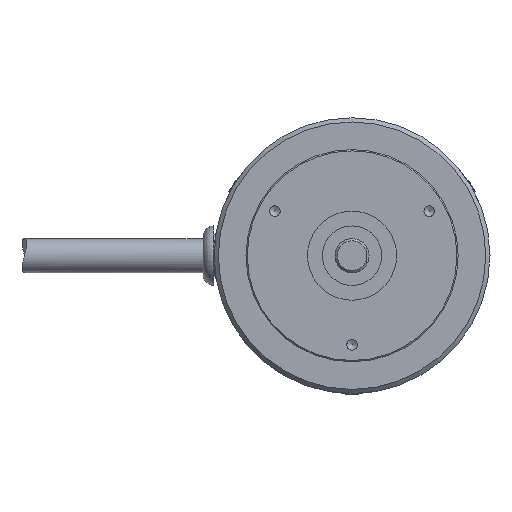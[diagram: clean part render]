
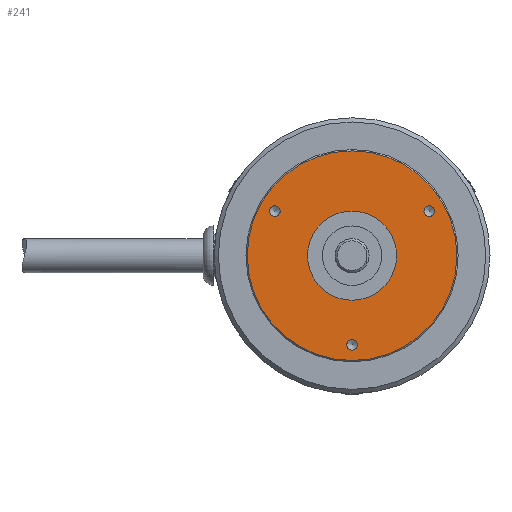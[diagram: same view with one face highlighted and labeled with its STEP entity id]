
A CAD part, left-side view. The second image highlights one B-rep face of the part: STEP entity #241.
In plain terms, the highlighted planar face has unit normal (-1, 0, 0).
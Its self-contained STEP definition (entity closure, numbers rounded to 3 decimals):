
#241=ADVANCED_FACE('',(#512,#513,#514,#515,#516),#517,.F.);
#512=FACE_OUTER_BOUND('',#893,.T.);
#513=FACE_BOUND('',#894,.T.);
#514=FACE_BOUND('',#895,.T.);
#515=FACE_BOUND('',#896,.T.);
#516=FACE_BOUND('',#897,.T.);
#517=PLANE('',#898);
#893=EDGE_LOOP('',(#1380));
#894=EDGE_LOOP('',(#1381));
#895=EDGE_LOOP('',(#1382));
#896=EDGE_LOOP('',(#1383));
#897=EDGE_LOOP('',(#1384));
#898=AXIS2_PLACEMENT_3D('',#1385,#1386,#1387);
#1380=ORIENTED_EDGE('',*,*,#2025,.T.);
#1381=ORIENTED_EDGE('',*,*,#2026,.F.);
#1382=ORIENTED_EDGE('',*,*,#2027,.F.);
#1383=ORIENTED_EDGE('',*,*,#2028,.F.);
#1384=ORIENTED_EDGE('',*,*,#2022,.F.);
#1385=CARTESIAN_POINT('',(0.,17.75,0.0));
#1386=DIRECTION('',(1.0,0.0,0.0));
#1387=DIRECTION('',(0.0,0.0,-1.0));
#2022=EDGE_CURVE('',#2342,#2342,#2343,.T.);
#2025=EDGE_CURVE('',#2347,#2347,#2348,.F.);
#2026=EDGE_CURVE('',#2349,#2349,#2350,.T.);
#2027=EDGE_CURVE('',#2351,#2351,#2352,.T.);
#2028=EDGE_CURVE('',#2353,#2353,#2354,.T.);
#2342=VERTEX_POINT('',#2908);
#2343=CIRCLE('',#2909,10.5);
#2347=VERTEX_POINT('',#2913);
#2348=CIRCLE('',#2914,24.7);
#2349=VERTEX_POINT('',#2915);
#2350=CIRCLE('',#2916,1.25);
#2351=VERTEX_POINT('',#2917);
#2352=CIRCLE('',#2918,1.25);
#2353=VERTEX_POINT('',#2919);
#2354=CIRCLE('',#2920,1.25);
#2908=CARTESIAN_POINT('',(0.0,0.0,10.5));
#2909=AXIS2_PLACEMENT_3D('',#3700,#3701,#3702);
#2913=CARTESIAN_POINT('',(0.,0.,-24.7));
#2914=AXIS2_PLACEMENT_3D('',#3706,#3707,#3708);
#2915=CARTESIAN_POINT('',(0.,-1.25,-21.0));
#2916=AXIS2_PLACEMENT_3D('',#3709,#3710,#3711);
#2917=CARTESIAN_POINT('',(0.,-19.437,10.5));
#2918=AXIS2_PLACEMENT_3D('',#3712,#3713,#3714);
#2919=CARTESIAN_POINT('',(0.,16.937,10.5));
#2920=AXIS2_PLACEMENT_3D('',#3715,#3716,#3717);
#3700=CARTESIAN_POINT('',(0.0,0.0,0.0));
#3701=DIRECTION('',(-1.0,0.0,0.0));
#3702=DIRECTION('',(0.0,0.0,1.0));
#3706=CARTESIAN_POINT('',(0.,0.0,0.0));
#3707=DIRECTION('',(1.0,0.0,0.0));
#3708=DIRECTION('',(0.0,0.0,-1.0));
#3709=CARTESIAN_POINT('',(0.,0.0,-21.0));
#3710=DIRECTION('',(-1.0,0.0,0.0));
#3711=DIRECTION('',(0.0,-1.0,0.0));
#3712=CARTESIAN_POINT('',(0.,-18.187,10.5));
#3713=DIRECTION('',(-1.0,0.0,0.0));
#3714=DIRECTION('',(0.0,-1.0,0.0));
#3715=CARTESIAN_POINT('',(0.,18.187,10.5));
#3716=DIRECTION('',(-1.0,0.0,0.0));
#3717=DIRECTION('',(0.0,-1.0,0.0));
